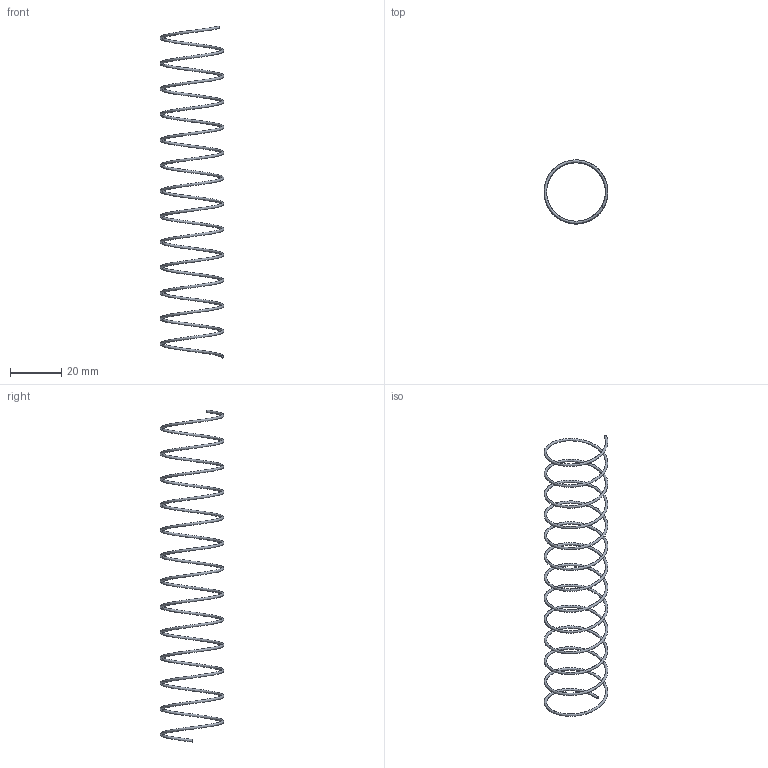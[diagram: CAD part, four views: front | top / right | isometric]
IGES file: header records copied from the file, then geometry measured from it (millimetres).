
Start section: Missler Software BP 521, 31674 Labege Cedex, France Tel   : +33 (0)5 61 00 03 00 Fax   : +33 (0)5 61 00 03 03 Email : sup.topsolid@topsolid.com
Global section: file name: D:\Cuma\25 06 2009\D60.01\D60.01_24\D60.01_24130.igs; native system: TopSolid v605250 Missler Software; preprocessor: IGES preprocessor v100000; date: 030203.154638; units: millimetre
Bounding box: 25 x 25 x 130.16 mm (x, y, z)
Surface area: 3059.6 mm2 (no closed solid volume)
Topology: 0 solids, 0 shells, 3 faces, 27 edges, 26 vertices
Faces by surface type: bspline 3
